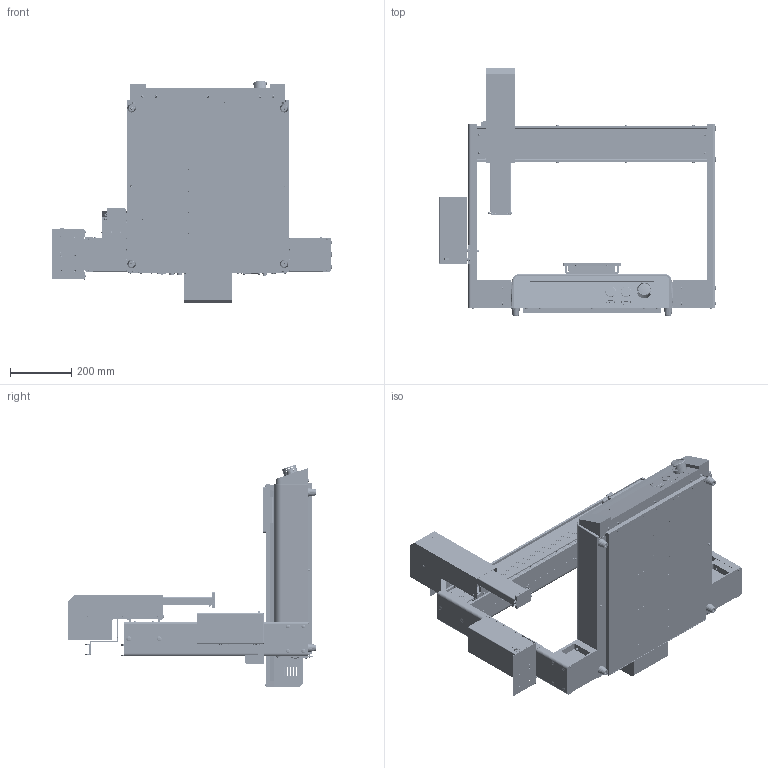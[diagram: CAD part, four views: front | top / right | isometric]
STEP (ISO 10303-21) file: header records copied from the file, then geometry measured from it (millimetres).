
FILE_DESCRIPTION(('FreeCAD Model'),'2;1');
FILE_NAME('C:/Users/martin.stroffek/Desktop/robots/RV/7363574_Nordson_EFD_ROBOT_R6V_4AXIS_620x500x150MM_3Dmodel.step','2020-02-03T18:31:14',('Author'),( ''),'Open CASCADE STEP processor 7.2','FreeCAD','Unknown');
FILE_SCHEMA(('AUTOMOTIVE_DESIGN { 1 0 10303 214 1 1 1 1 }'));
Products named in the file (1): NORDSONEFD-7363574__ROBOT_E6V_3_AXIS_620_X_500_X_150_MM
Bounding box: 916.73 x 812 x 728.16 mm (x, y, z)
Volume: 14060248.9 mm3; surface area: 5290953.1 mm2
Topology: 1 solids, 1 shells, 14714 faces, 39800 edges, 25833 vertices
Faces by surface type: plane 7253, cylinder 3371, bspline 2229, cone 1795, sphere 44, revolution 16, torus 6
Entity records: 1285927 total; most frequent: CARTESIAN_POINT 548878, DIRECTION 121756, ORIENTED_EDGE 78772, PCURVE 78772, DEFINITIONAL_REPRESENTATION 78772, LINE 73126, VECTOR 73126, EDGE_CURVE 39386
